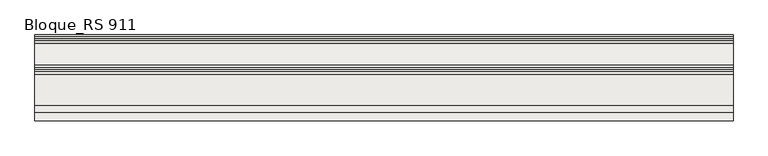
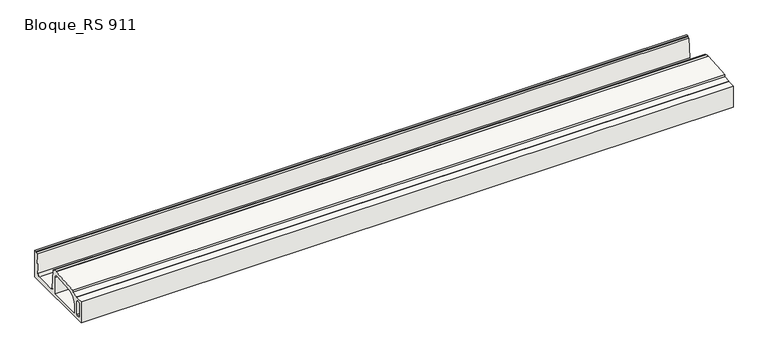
"""IFC4 building model written with IfcOpenShell, lengths in millimetres: slab geometry, ROSA GRES_RS 911 : Bloque_RS 911."""

from ifc_helpers import new_model, si_unit, point, frame, frame_2d, origin, place, context, project, spatial, polyline, circle_curve, trimmed, segment, composite_curve, outline, extrude, source, transform, mapped, element, save


def bloque_rs_911_3a2023d3(model_context):
    return source(origin(), model_context, "Body", "SweptSolid", [
        extrude(outline(composite_curve([segment(polyline([(12.836227, 1.7539108), (12.836227, 171.9333029), (67.836227, 176.4100471), (67.836227, 173.8170239), (72.836227, 173.8170239), (72.836227, 176.8170239), (125.1172881, 181.0724591), (123.836227, 196.8112099), (343.836227, 214.7181867), (343.836227, 216.3460936), (363.836227, 216.3460936), (363.836227, 206.3460936), (381.836227, 206.3460936), (393.5484732, 55.2086635)]), True, "CONTINUOUS"), segment(trimmed(circle_curve(frame_2d((413.4886891, 56.7539108)), 20.0), [point((393.5484732, 55.2086635))], [point((413.4886891, 36.7539108))], True, "CARTESIAN"), True, "CONTINUOUS"), segment(polyline([(413.4886891, 36.7539108), (567.1837649, 36.7539108)]), True, "CONTINUOUS"), segment(trimmed(circle_curve(frame_2d((567.1837649, 56.7539108)), 20.0), [point((567.1837649, 36.7539108))], [point((587.1239808, 55.2086635))], True, "CARTESIAN"), True, "CONTINUOUS"), segment(polyline([(587.1239808, 55.2086635), (598.836227, 206.3460936), (616.836227, 206.3460936), (616.836227, 216.3460936), (626.836227, 216.3460936), (626.836227, 1.7539108), (12.836227, 1.7539108)]), True, "CONTINUOUS")], self_intersect=False), holes=[composite_curve([segment(trimmed(circle_curve(frame_2d((59.836227, 140.6431347)), 8.0), [point((67.836227, 140.6431347))], [point((59.1872106, 148.6167648))], True, "CARTESIAN"), True, "CONTINUOUS"), segment(polyline([(59.1872106, 148.6167648), (47.1872106, 147.6400206)]), True, "CONTINUOUS"), segment(trimmed(circle_curve(frame_2d((47.836227, 139.6663905)), 8.0), [point((47.1872106, 147.6400206))], [point((39.836227, 139.6663905))], True, "CARTESIAN"), True, "CONTINUOUS"), segment(polyline([(39.836227, 139.6663905), (39.836227, 36.7539108)]), True, "CONTINUOUS"), segment(trimmed(circle_curve(frame_2d((47.836227, 36.7539108)), 8.0), [point((39.836227, 36.7539108))], [point((47.836227, 28.7539108))], True, "CARTESIAN"), True, "CONTINUOUS"), segment(polyline([(47.836227, 28.7539108), (59.836227, 28.7539108)]), True, "CONTINUOUS"), segment(trimmed(circle_curve(frame_2d((59.836227, 36.7539108)), 8.0), [point((59.836227, 28.7539108))], [point((67.836227, 36.7539108))], True, "CARTESIAN"), True, "CONTINUOUS"), segment(polyline([(67.836227, 36.7539108), (67.836227, 140.6431347)]), True, "CONTINUOUS")], self_intersect=False), composite_curve([segment(trimmed(circle_curve(frame_2d((187.3063127, 84.534333)), 85.0), [point((180.4105134, 169.2541533))], [point((102.3063127, 84.534333))], True, "CARTESIAN"), True, "CONTINUOUS"), segment(polyline([(102.3063127, 84.534333), (102.3063127, 28.7539108), (356.3063127, 28.7539108), (356.3063127, 161.8772036)]), True, "CONTINUOUS"), segment(trimmed(circle_curve(frame_2d((336.3063127, 161.8772036)), 20.0), [point((356.3063127, 161.8772036))], [point((334.6837717, 181.811279))], True, "CARTESIAN"), True, "CONTINUOUS"), segment(polyline([(334.6837717, 181.811279), (180.4105134, 169.2541533)]), True, "CONTINUOUS")], self_intersect=False)]), frame((0.0, 0.0, 0.0), z_axis=(1.0, 0.0, 0.0), x_axis=(0.0, 1.0, 0.0)), (0.0, 0.0, 1.0), 4999.625),
    ])


if __name__ == "__main__":
    model = new_model("IFC4")
    model_context = context("Model", 3, world=origin())
    ifc_project = project(units=[si_unit("LENGTHUNIT", "METRE", prefix="MILLI")], contexts=[model_context])
    site = spatial("IfcSite", under=ifc_project)
    building = spatial("IfcBuilding", under=site)
    placement = place(None, origin())
    bloque_rs_911_shape = bloque_rs_911_3a2023d3(model_context)
    element("IfcSlab", 1, ObjectType="ROSA GRES_RS 911 : Bloque_RS 911", at=placement, inside=building, context=model_context, shape_type="MappedRepresentation", body=[
        mapped(bloque_rs_911_shape, transform((0.0, 0.0, 0.0), x_axis=(1.0, 0.0, 0.0), y_axis=(0.0, 1.0, 0.0), z_axis=(0.0, 0.0, 1.0))),
    ])
    save(model, "model.ifc")
